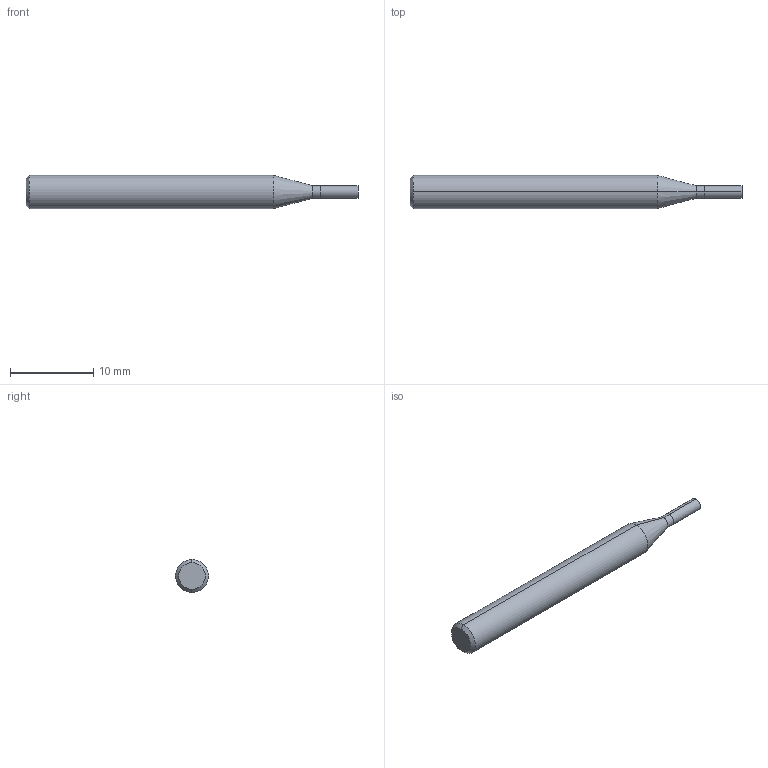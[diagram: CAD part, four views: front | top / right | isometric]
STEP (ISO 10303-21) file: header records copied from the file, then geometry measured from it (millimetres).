
FILE_DESCRIPTION (( 'STEP AP214' ), '1' );
FILE_NAME ('G9425015.STEP', '2018-07-02T09:18:18', ( '' ), ( '' ), 'SwSTEP 2.0', 'SolidWorks 2014', '' );
FILE_SCHEMA (( 'AUTOMOTIVE_DESIGN' ));
Length unit declared in the file: millimetre
Products named in the file (1): G9425015
Bounding box: 40 x 4 x 4 mm (x, y, z)
Volume: 413.3 mm3; surface area: 457.3 mm2
Topology: 2 solids, 2 shells, 14 faces, 24 edges, 14 vertices
Faces by surface type: cylinder 6, cone 4, plane 4
Entity records: 421 total; most frequent: DIRECTION 68, CARTESIAN_POINT 53, ORIENTED_EDGE 48, AXIS2_PLACEMENT_3D 29, EDGE_CURVE 24, EDGE_LOOP 14, FACE_OUTER_BOUND 14, CIRCLE 14
